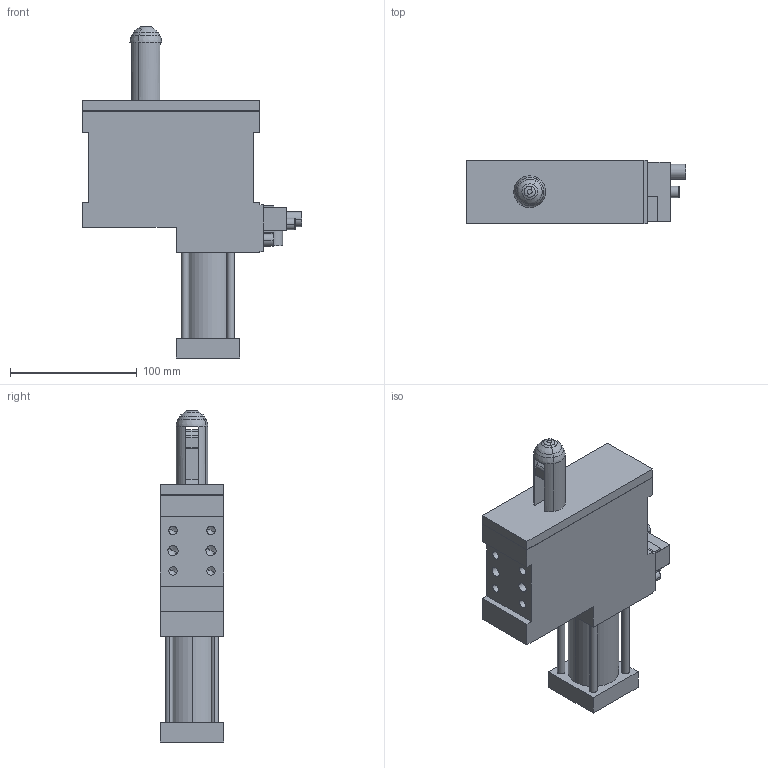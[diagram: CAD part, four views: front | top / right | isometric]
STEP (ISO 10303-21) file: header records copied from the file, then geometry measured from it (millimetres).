
FILE_DESCRIPTION(('CATIA V5 STEP Exchange'),'2;1');
FILE_NAME('C:\Users\huberm\Desktop\STEP\K_32_UZ_A25_T12_TUENKERS.stp','2013-03-13T13:10:23+00:00',('none'),('none'),'CATIA Version 5 Release 19 SP 3 (IN-10)','CATIA V5 STEP AP203','none');
FILE_SCHEMA(('CONFIG_CONTROL_DESIGN'));
Length unit declared in the file: millimetre
Products named in the file (1): K_32_UZ_A25_T12_Tuenkers
Bounding box: 173 x 50 x 262 mm (x, y, z)
Volume: 903543.8 mm3; surface area: 92153.8 mm2
Topology: 1 solids, 1 shells, 188 faces, 473 edges, 283 vertices
Faces by surface type: plane 78, cylinder 66, cone 34, revolution 6, torus 4
Entity records: 5021 total; most frequent: CARTESIAN_POINT 899, ORIENTED_EDGE 886, DIRECTION 688, EDGE_CURVE 443, AXIS2_PLACEMENT_3D 290, VERTEX_POINT 283, VECTOR 269, LINE 269
